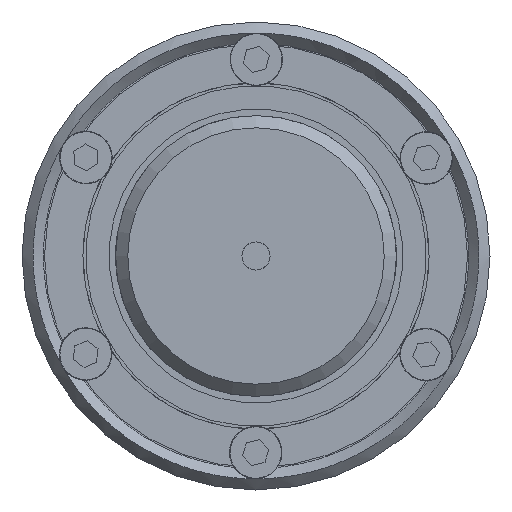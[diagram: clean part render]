
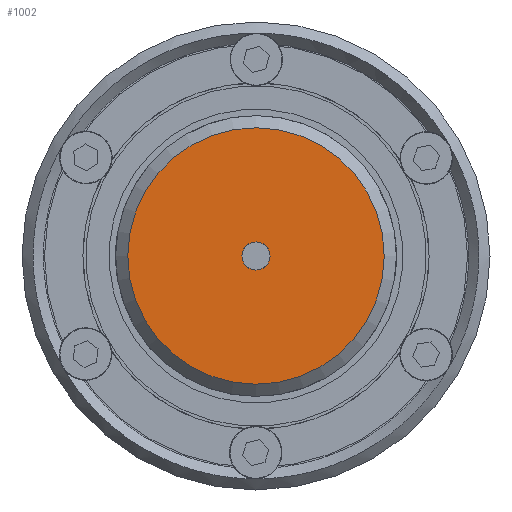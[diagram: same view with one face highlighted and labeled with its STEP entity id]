
A CAD part, left-side view. The second image highlights one B-rep face of the part: STEP entity #1002.
In plain terms, the highlighted planar face has unit normal (-1, 0, 0) as drawn and (0, 1, 0) by its records, which use the part's own axes.
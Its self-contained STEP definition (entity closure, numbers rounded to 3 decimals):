
#1002 = ADVANCED_FACE( '', ( #1982, #1983 ), #1984, .T. );
#1982 = FACE_OUTER_BOUND( '', #3225, .T. );
#1983 = FACE_BOUND( '', #3226, .T. );
#1984 = PLANE( '', #3227 );
#3225 = EDGE_LOOP( '', ( #4445 ) );
#3226 = EDGE_LOOP( '', ( #4446 ) );
#3227 = AXIS2_PLACEMENT_3D( '', #4447, #4448, #4449 );
#4445 = ORIENTED_EDGE( '', *, *, #6510, .T. );
#4446 = ORIENTED_EDGE( '', *, *, #6511, .T. );
#4447 = CARTESIAN_POINT( '', ( 0., 0., 0. ) );
#4448 = DIRECTION( '', ( 0., 1., 0. ) );
#4449 = DIRECTION( '', ( 0., 0., 1. ) );
#6510 = EDGE_CURVE( '', #7450, #7450, #7451, .T. );
#6511 = EDGE_CURVE( '', #7452, #7452, #7453, .T. );
#7450 = VERTEX_POINT( '', #8786 );
#7451 = CIRCLE( '', #8787, 13.7 );
#7452 = VERTEX_POINT( '', #8788 );
#7453 = CIRCLE( '', #8789, 1.5 );
#8786 = CARTESIAN_POINT( '', ( 0., 0., 13.7 ) );
#8787 = AXIS2_PLACEMENT_3D( '', #10546, #10547, #10548 );
#8788 = CARTESIAN_POINT( '', ( 0., 0., -1.5 ) );
#8789 = AXIS2_PLACEMENT_3D( '', #10549, #10550, #10551 );
#10546 = CARTESIAN_POINT( '', ( 0., 0., 0. ) );
#10547 = DIRECTION( '', ( 0., 1., 0. ) );
#10548 = DIRECTION( '', ( 0., 0., 1. ) );
#10549 = CARTESIAN_POINT( '', ( 0., 0., 0. ) );
#10550 = DIRECTION( '', ( 0., -1., 0. ) );
#10551 = DIRECTION( '', ( 0., 0., -1. ) );
